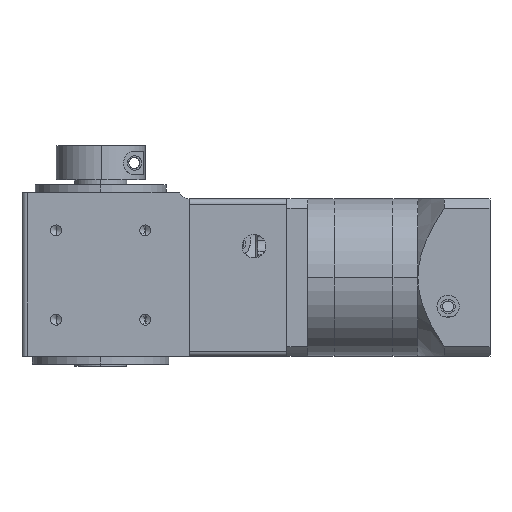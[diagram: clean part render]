
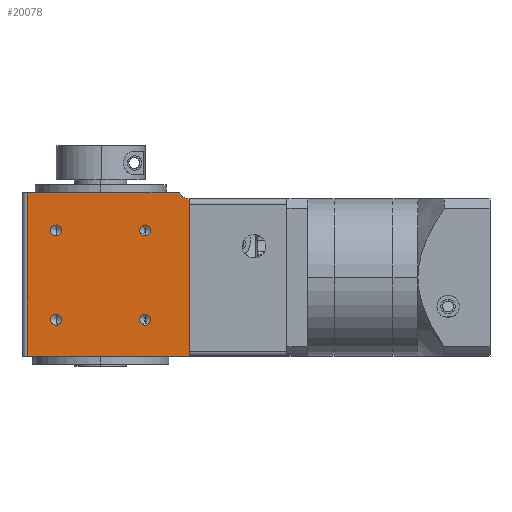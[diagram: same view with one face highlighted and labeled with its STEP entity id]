
A CAD part, left-side view. The second image highlights one B-rep face of the part: STEP entity #20078.
In plain terms, the highlighted planar face has unit normal (-1, 0, 0).
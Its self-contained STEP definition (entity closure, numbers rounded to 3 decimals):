
#627 = CARTESIAN_POINT ( 'NONE',  ( -30., -15., 17. ) ) ;
#903 = AXIS2_PLACEMENT_3D ( 'NONE', #32539, #15694, #35396 ) ;
#1013 = CARTESIAN_POINT ( 'NONE',  ( -30., -15., 17. ) ) ;
#1172 = CARTESIAN_POINT ( 'NONE',  ( -30., -32., 62.95 ) ) ;
#1304 = ORIENTED_EDGE ( 'NONE', *, *, #19747, .F. ) ;
#1365 = CARTESIAN_POINT ( 'NONE',  ( -30., -32., 68.5 ) ) ;
#1775 = DIRECTION ( 'NONE',  ( 0., 0., 1. ) ) ;
#2227 = VERTEX_POINT ( 'NONE', #3234 ) ;
#2241 = DIRECTION ( 'NONE',  ( 1., 0., 0. ) ) ;
#2401 = VERTEX_POINT ( 'NONE', #17055 ) ;
#3162 = FACE_BOUND ( 'NONE', #34751, .T. ) ;
#3234 = CARTESIAN_POINT ( 'NONE',  ( -30., -32., 3. ) ) ;
#3441 = DIRECTION ( 'NONE',  ( 0., 0., 1. ) ) ;
#3553 = CARTESIAN_POINT ( 'NONE',  ( -30., 19., 17. ) ) ;
#3822 = DIRECTION ( 'NONE',  ( 0., 0., 1. ) ) ;
#3900 = ORIENTED_EDGE ( 'NONE', *, *, #16063, .F. ) ;
#3912 = DIRECTION ( 'NONE',  ( -1., 0., 0. ) ) ;
#4046 = FACE_BOUND ( 'NONE', #35249, .T. ) ;
#5468 = CARTESIAN_POINT ( 'NONE',  ( -30., 19., 14.9 ) ) ;
#5593 = VECTOR ( 'NONE', #16461, 1000. ) ;
#6029 = EDGE_CURVE ( 'NONE', #9544, #2227, #8315, .T. ) ;
#6183 = ORIENTED_EDGE ( 'NONE', *, *, #6029, .F. ) ;
#6248 = CIRCLE ( 'NONE', #32004, 2.1 ) ;
#6414 = DIRECTION ( 'NONE',  ( 0., 0., 1. ) ) ;
#6551 = EDGE_LOOP ( 'NONE', ( #31455, #3900 ) ) ;
#7012 = CARTESIAN_POINT ( 'NONE',  ( -30., -32., 3. ) ) ;
#7397 = DIRECTION ( 'NONE',  ( -1., 0., 0. ) ) ;
#7445 = CARTESIAN_POINT ( 'NONE',  ( -30., 30., 68.5 ) ) ;
#7614 = CIRCLE ( 'NONE', #903, 2.1 ) ;
#8112 = CARTESIAN_POINT ( 'NONE',  ( -30., -32., 65.5 ) ) ;
#8219 = AXIS2_PLACEMENT_3D ( 'NONE', #9488, #29029, #12270 ) ;
#8254 = CARTESIAN_POINT ( 'NONE',  ( -30., -15., 53.1 ) ) ;
#8302 = CIRCLE ( 'NONE', #31320, 2.1 ) ;
#8315 = LINE ( 'NONE', #1365, #29758 ) ;
#9235 = ORIENTED_EDGE ( 'NONE', *, *, #30398, .F. ) ;
#9488 = CARTESIAN_POINT ( 'NONE',  ( -30., -32., 67.45 ) ) ;
#9544 = VERTEX_POINT ( 'NONE', #1172 ) ;
#10187 = VERTEX_POINT ( 'NONE', #23945 ) ;
#10673 = PLANE ( 'NONE',  #23495 ) ;
#10714 = FACE_BOUND ( 'NONE', #6551, .T. ) ;
#11305 = DIRECTION ( 'NONE',  ( -1., 0., 0. ) ) ;
#11370 = ORIENTED_EDGE ( 'NONE', *, *, #14890, .F. ) ;
#11619 = ORIENTED_EDGE ( 'NONE', *, *, #24401, .F. ) ;
#11636 = EDGE_CURVE ( 'NONE', #2227, #14128, #15440, .T. ) ;
#11667 = VECTOR ( 'NONE', #13085, 1000. ) ;
#11696 = VERTEX_POINT ( 'NONE', #30107 ) ;
#12178 = CIRCLE ( 'NONE', #15103, 2.1 ) ;
#12270 = DIRECTION ( 'NONE',  ( 0., 0., 1. ) ) ;
#12307 = VERTEX_POINT ( 'NONE', #25163 ) ;
#13061 = LINE ( 'NONE', #8112, #5593 ) ;
#13085 = DIRECTION ( 'NONE',  ( 0., 0., -1. ) ) ;
#13119 = CIRCLE ( 'NONE', #23317, 2.1 ) ;
#13649 = EDGE_CURVE ( 'NONE', #19300, #11696, #6248, .T. ) ;
#14128 = VERTEX_POINT ( 'NONE', #16470 ) ;
#14226 = ORIENTED_EDGE ( 'NONE', *, *, #11636, .F. ) ;
#14890 = EDGE_CURVE ( 'NONE', #29783, #16141, #32941, .T. ) ;
#15103 = AXIS2_PLACEMENT_3D ( 'NONE', #627, #20242, #3441 ) ;
#15440 = LINE ( 'NONE', #7012, #28632 ) ;
#15694 = DIRECTION ( 'NONE',  ( -1., 0., 0. ) ) ;
#16014 = EDGE_CURVE ( 'NONE', #12307, #27650, #13061, .T. ) ;
#16063 = EDGE_CURVE ( 'NONE', #29422, #10187, #12178, .T. ) ;
#16141 = VERTEX_POINT ( 'NONE', #20482 ) ;
#16161 = EDGE_CURVE ( 'NONE', #10187, #29422, #16925, .T. ) ;
#16383 = ORIENTED_EDGE ( 'NONE', *, *, #13649, .F. ) ;
#16461 = DIRECTION ( 'NONE',  ( 0., -1., 0. ) ) ;
#16470 = CARTESIAN_POINT ( 'NONE',  ( -30., 30., 3. ) ) ;
#16925 = CIRCLE ( 'NONE', #22677, 2.1 ) ;
#17055 = CARTESIAN_POINT ( 'NONE',  ( -30., 19., 48.9 ) ) ;
#17890 = EDGE_CURVE ( 'NONE', #12307, #14128, #26530, .T. ) ;
#18485 = AXIS2_PLACEMENT_3D ( 'NONE', #35411, #18529, #1775 ) ;
#18497 = VERTEX_POINT ( 'NONE', #35110 ) ;
#18529 = DIRECTION ( 'NONE',  ( -1., 0., 0. ) ) ;
#19300 = VERTEX_POINT ( 'NONE', #8254 ) ;
#19747 = EDGE_CURVE ( 'NONE', #2401, #18497, #20277, .T. ) ;
#19942 = EDGE_CURVE ( 'NONE', #18497, #2401, #7614, .T. ) ;
#20078 = ADVANCED_FACE ( 'NONE', ( #4046, #25566, #3162, #10714, #32128 ), #10673, .F. ) ;
#20242 = DIRECTION ( 'NONE',  ( -1., 0., 0. ) ) ;
#20277 = CIRCLE ( 'NONE', #18485, 2.1 ) ;
#20482 = CARTESIAN_POINT ( 'NONE',  ( -30., 19., 19.1 ) ) ;
#20603 = DIRECTION ( 'NONE',  ( -1., 0., 0. ) ) ;
#20688 = CARTESIAN_POINT ( 'NONE',  ( -30., -15., 51. ) ) ;
#20937 = DIRECTION ( 'NONE',  ( 0., 1., 0. ) ) ;
#20957 = DIRECTION ( 'NONE',  ( 0., 0., -1. ) ) ;
#21858 = DIRECTION ( 'NONE',  ( 0., 0., -1. ) ) ;
#22677 = AXIS2_PLACEMENT_3D ( 'NONE', #1013, #20603, #3822 ) ;
#22758 = EDGE_LOOP ( 'NONE', ( #6183, #9235, #24493, #35286, #14226 ) ) ;
#23213 = DIRECTION ( 'NONE',  ( -1., 0., 0. ) ) ;
#23317 = AXIS2_PLACEMENT_3D ( 'NONE', #28031, #11305, #30853 ) ;
#23495 = AXIS2_PLACEMENT_3D ( 'NONE', #33033, #2241, #21858 ) ;
#23562 = DIRECTION ( 'NONE',  ( 0., 0., 1. ) ) ;
#23613 = CARTESIAN_POINT ( 'NONE',  ( -30., -15., 14.9 ) ) ;
#23945 = CARTESIAN_POINT ( 'NONE',  ( -30., -15., 19.1 ) ) ;
#24169 = CARTESIAN_POINT ( 'NONE',  ( -30., -15., 51. ) ) ;
#24401 = EDGE_CURVE ( 'NONE', #11696, #19300, #8302, .T. ) ;
#24493 = ORIENTED_EDGE ( 'NONE', *, *, #16014, .F. ) ;
#25163 = CARTESIAN_POINT ( 'NONE',  ( -30., 30., 65.5 ) ) ;
#25470 = AXIS2_PLACEMENT_3D ( 'NONE', #3553, #23213, #6414 ) ;
#25566 = FACE_BOUND ( 'NONE', #33206, .T. ) ;
#26530 = LINE ( 'NONE', #7445, #11667 ) ;
#26979 = DIRECTION ( 'NONE',  ( 0., 0., 1. ) ) ;
#27650 = VERTEX_POINT ( 'NONE', #34706 ) ;
#28031 = CARTESIAN_POINT ( 'NONE',  ( -30., 19., 17. ) ) ;
#28632 = VECTOR ( 'NONE', #20937, 1000. ) ;
#29029 = DIRECTION ( 'NONE',  ( -1., 0., 0. ) ) ;
#29422 = VERTEX_POINT ( 'NONE', #23613 ) ;
#29758 = VECTOR ( 'NONE', #20957, 1000. ) ;
#29783 = VERTEX_POINT ( 'NONE', #5468 ) ;
#30107 = CARTESIAN_POINT ( 'NONE',  ( -30., -15., 48.9 ) ) ;
#30398 = EDGE_CURVE ( 'NONE', #27650, #9544, #36200, .T. ) ;
#30853 = DIRECTION ( 'NONE',  ( 0., 0., 1. ) ) ;
#31320 = AXIS2_PLACEMENT_3D ( 'NONE', #20688, #3912, #23562 ) ;
#31455 = ORIENTED_EDGE ( 'NONE', *, *, #16161, .F. ) ;
#32004 = AXIS2_PLACEMENT_3D ( 'NONE', #24169, #7397, #26979 ) ;
#32128 = FACE_OUTER_BOUND ( 'NONE', #22758, .T. ) ;
#32426 = ORIENTED_EDGE ( 'NONE', *, *, #19942, .F. ) ;
#32539 = CARTESIAN_POINT ( 'NONE',  ( -30., 19., 51. ) ) ;
#32941 = CIRCLE ( 'NONE', #25470, 2.1 ) ;
#33033 = CARTESIAN_POINT ( 'NONE',  ( -30., -32., 68.5 ) ) ;
#33206 = EDGE_LOOP ( 'NONE', ( #32426, #1304 ) ) ;
#33335 = ORIENTED_EDGE ( 'NONE', *, *, #36073, .F. ) ;
#34706 = CARTESIAN_POINT ( 'NONE',  ( -30., -27.944, 65.5 ) ) ;
#34751 = EDGE_LOOP ( 'NONE', ( #33335, #11370 ) ) ;
#35110 = CARTESIAN_POINT ( 'NONE',  ( -30., 19., 53.1 ) ) ;
#35249 = EDGE_LOOP ( 'NONE', ( #16383, #11619 ) ) ;
#35286 = ORIENTED_EDGE ( 'NONE', *, *, #17890, .T. ) ;
#35396 = DIRECTION ( 'NONE',  ( 0., 0., 1. ) ) ;
#35411 = CARTESIAN_POINT ( 'NONE',  ( -30., 19., 51. ) ) ;
#36073 = EDGE_CURVE ( 'NONE', #16141, #29783, #13119, .T. ) ;
#36200 = CIRCLE ( 'NONE', #8219, 4.5 ) ;
